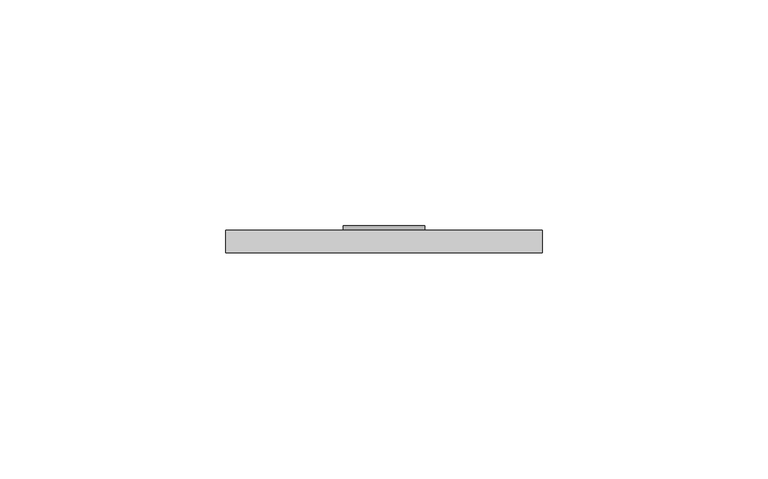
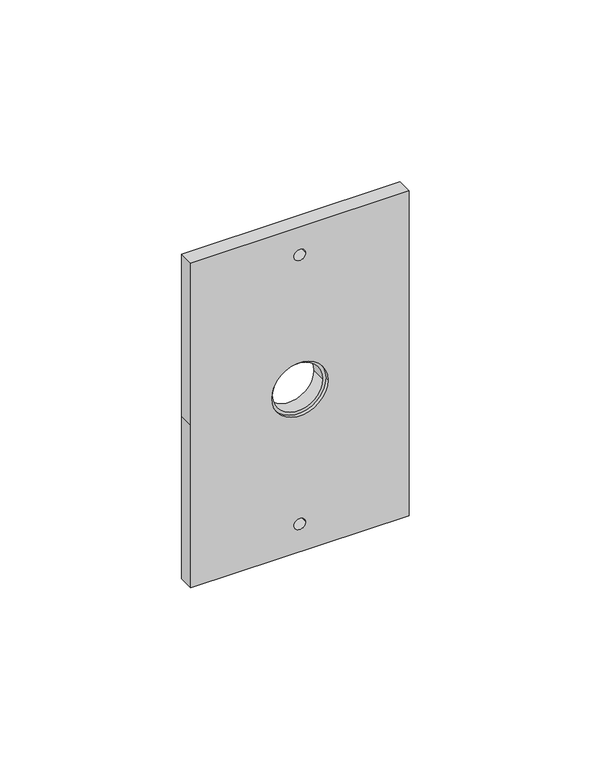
"""IFC4 building model written with IfcOpenShell, lengths in millimetres: proxy geometry, Timbre - sonido : Contacto-comunicaciones."""

from ifc_helpers import new_model, si_unit, point, frame, frame_2d, origin, place, context, project, spatial, polyline, circle_curve, trimmed, segment, composite_curve, outline, extrude, source, transform, mapped, element, save


def electrical_fixtures_55a13dfd(model_context):
    return source(origin(), model_context, "Body", "SweptSolid", [
        extrude(outline(composite_curve([segment(trimmed(circle_curve(frame_2d((2000.0, 125.0)), 9.0), [point((2000.0, 116.0))], [point((2000.0, 134.0))], False, "CARTESIAN"), True, "CONTINUOUS"), segment(trimmed(circle_curve(frame_2d((2000.0, 125.0)), 9.0), [point((2000.0, 134.0))], [point((2000.0, 116.0))], False, "CARTESIAN"), True, "CONTINUOUS")], self_intersect=False), holes=[composite_curve([segment(trimmed(circle_curve(frame_2d((2000.0, 125.0)), 8.0), [point((2000.0, 133.0))], [point((2000.0, 117.0))], True, "CARTESIAN"), True, "CONTINUOUS"), segment(trimmed(circle_curve(frame_2d((2000.0, 125.0)), 8.0), [point((2000.0, 117.0))], [point((2000.0, 133.0))], True, "CARTESIAN"), True, "CONTINUOUS")], self_intersect=False)]), frame((0.0, 66.2025607, 0.0), z_axis=(0.0, 1.0, 0.0), x_axis=(0.0, 0.0, 1.0)), (0.0, 0.0, 1.0), 4.7658788),
        extrude(outline(polyline([(2055.0, 160.0), (2055.0, 90.0), (2000.0, 90.0), (1945.0, 90.0), (1945.0, 160.0), (2055.0, 160.0)]), holes=[composite_curve([segment(trimmed(circle_curve(frame_2d((2045.5814465, 125.0)), 1.8475425), [point((2045.5814465, 123.1524575))], [point((2045.5814465, 126.8475425))], True, "CARTESIAN"), True, "CONTINUOUS"), segment(trimmed(circle_curve(frame_2d((2045.5814465, 125.0)), 1.8475425), [point((2045.5814465, 126.8475425))], [point((2045.5814465, 123.1524575))], True, "CARTESIAN"), True, "CONTINUOUS")], self_intersect=False), composite_curve([segment(trimmed(circle_curve(frame_2d((1954.4185535, 125.0)), 1.8475425), [point((1954.4185535, 123.1524575))], [point((1954.4185535, 126.8475425))], True, "CARTESIAN"), True, "CONTINUOUS"), segment(trimmed(circle_curve(frame_2d((1954.4185535, 125.0)), 1.8475425), [point((1954.4185535, 126.8475425))], [point((1954.4185535, 123.1524575))], True, "CARTESIAN"), True, "CONTINUOUS")], self_intersect=False), composite_curve([segment(trimmed(circle_curve(frame_2d((2000.0, 125.0)), 9.0), [point((2000.0, 116.0))], [point((2000.0, 134.0))], True, "CARTESIAN"), True, "CONTINUOUS"), segment(trimmed(circle_curve(frame_2d((2000.0, 125.0)), 9.0), [point((2000.0, 134.0))], [point((2000.0, 116.0))], True, "CARTESIAN"), True, "CONTINUOUS")], self_intersect=False)]), frame((0.0, 65.0, 0.0), z_axis=(0.0, 1.0, 0.0), x_axis=(0.0, 0.0, 1.0)), (0.0, 0.0, 1.0), 5.0),
    ])


if __name__ == "__main__":
    model = new_model("IFC4")
    model_context = context("Model", 3, world=origin())
    ifc_project = project(units=[si_unit("LENGTHUNIT", "METRE", prefix="MILLI")], contexts=[model_context])
    site = spatial("IfcSite", under=ifc_project)
    building = spatial("IfcBuilding", under=site)
    placement = place(None, origin())
    electrical_fixtures_shape = electrical_fixtures_55a13dfd(model_context)
    element("IfcBuildingElementProxy", 1, Name="Timbre - sonido : Contacto-comunicaciones", ObjectType="Timbre - sonido : Contacto-comunicaciones", at=placement, inside=building, context=model_context, shape_type="MappedRepresentation", body=[
        mapped(electrical_fixtures_shape, transform((0.0, 0.0, 0.0), x_axis=(1.0, 0.0, 0.0), y_axis=(0.0, 1.0, 0.0), z_axis=(0.0, 0.0, 1.0))),
    ])
    save(model, "model.ifc")
